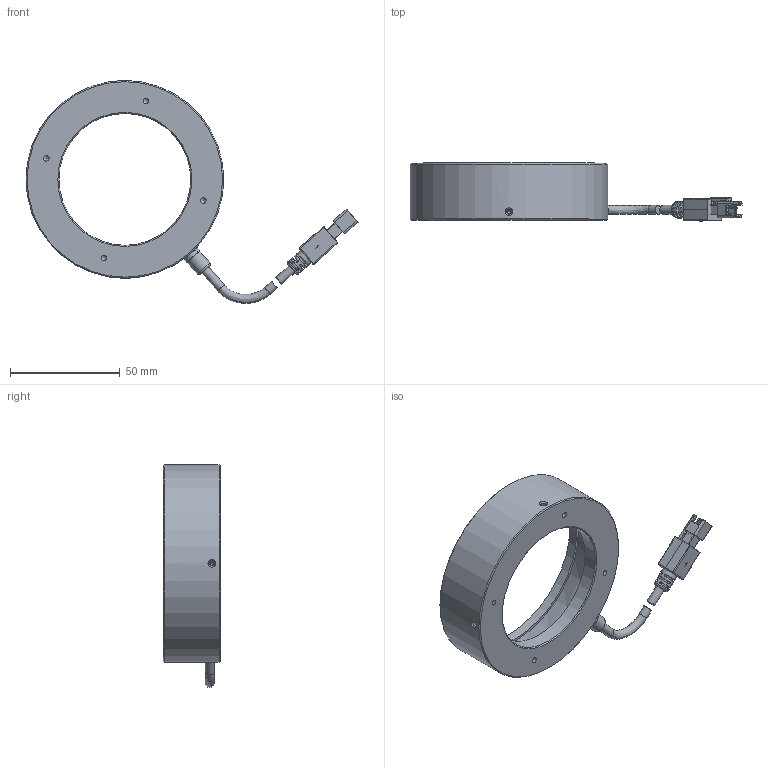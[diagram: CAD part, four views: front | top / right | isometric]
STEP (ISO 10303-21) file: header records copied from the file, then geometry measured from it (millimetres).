
FILE_DESCRIPTION (( 'STEP AP203' ), '1' );
FILE_NAME ('OPT-IRI9080-IR-V1.0.STEP', '2025-02-15T01:02:40', ( '' ), ( '' ), 'SwSTEP 2.0', 'SolidWorks 2016', '' );
FILE_SCHEMA (( 'CONFIG_CONTROL_DESIGN' ));
Length unit declared in the file: millimetre
Products named in the file (1): OPT-IRI9080-IR-V1.0
Bounding box: 151.13 x 26.35 x 101.45 mm (x, y, z)
Volume: 58602.8 mm3; surface area: 26756.2 mm2
Topology: 8 solids, 8 shells, 372 faces, 952 edges, 604 vertices
Faces by surface type: plane 188, cylinder 123, cone 32, bspline 19, torus 6, sphere 4
Full cylindrical faces by diameter (mm): 1.1 x4, 1.4 x4, 1.6 x4, 2 x4, 2.2 x4, 2.5 x4, 3.5 x1, 4.1 x4, 5.8 x1, 7.5 x2, 8 x1, 60 x1, 78 x1, 90 x1
Entity records: 12190 total; most frequent: CARTESIAN_POINT 3719, DIRECTION 1695, ORIENTED_EDGE 1670, EDGE_CURVE 835, AXIS2_PLACEMENT_3D 591, VERTEX_POINT 567, VECTOR 513, LINE 513
